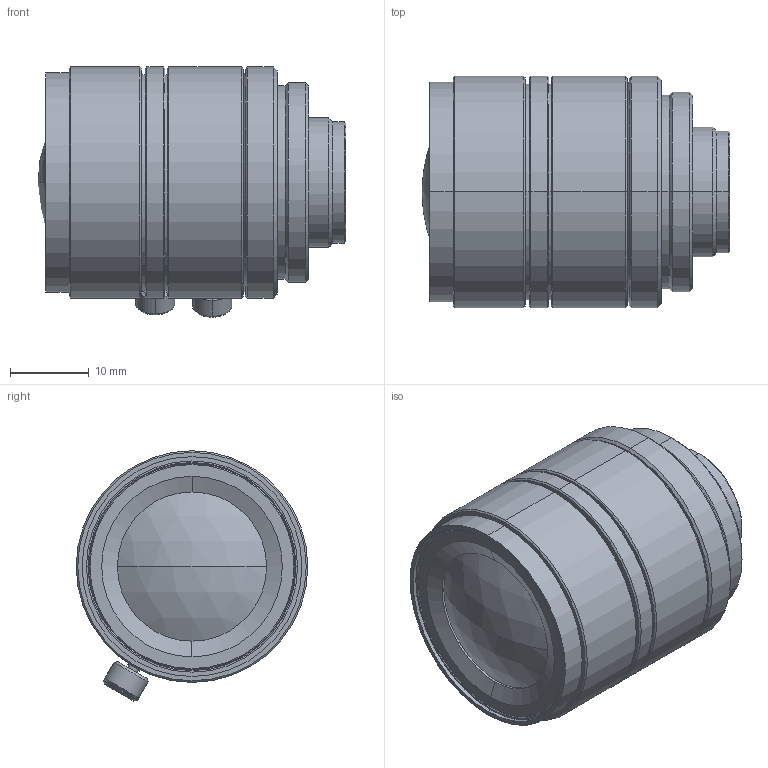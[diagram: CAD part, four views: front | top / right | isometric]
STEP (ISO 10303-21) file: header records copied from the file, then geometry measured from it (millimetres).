
FILE_DESCRIPTION (( 'STEP AP203' ), '1' );
FILE_NAME ('SV-03514V.STEP', '2013-10-24T07:35:42', ( 'VS Technology' ), ( '' ), 'SwSTEP 2.0', 'SolidWorks 2012', '' );
FILE_SCHEMA (( 'CONFIG_CONTROL_DESIGN' ));
Length unit declared in the file: millimetre
Products named in the file (1): SV-03514V
Bounding box: 39.22 x 29.5 x 31.9 mm (x, y, z)
Volume: 22042.4 mm3; surface area: 6339.9 mm2
Topology: 1 solids, 1 shells, 121 faces, 244 edges, 146 vertices
Faces by surface type: cone 50, cylinder 46, plane 21, sphere 4
Entity records: 3289 total; most frequent: DIRECTION 628, CARTESIAN_POINT 570, ORIENTED_EDGE 488, AXIS2_PLACEMENT_3D 266, EDGE_CURVE 244, VERTEX_POINT 146, CIRCLE 144, EDGE_LOOP 142
